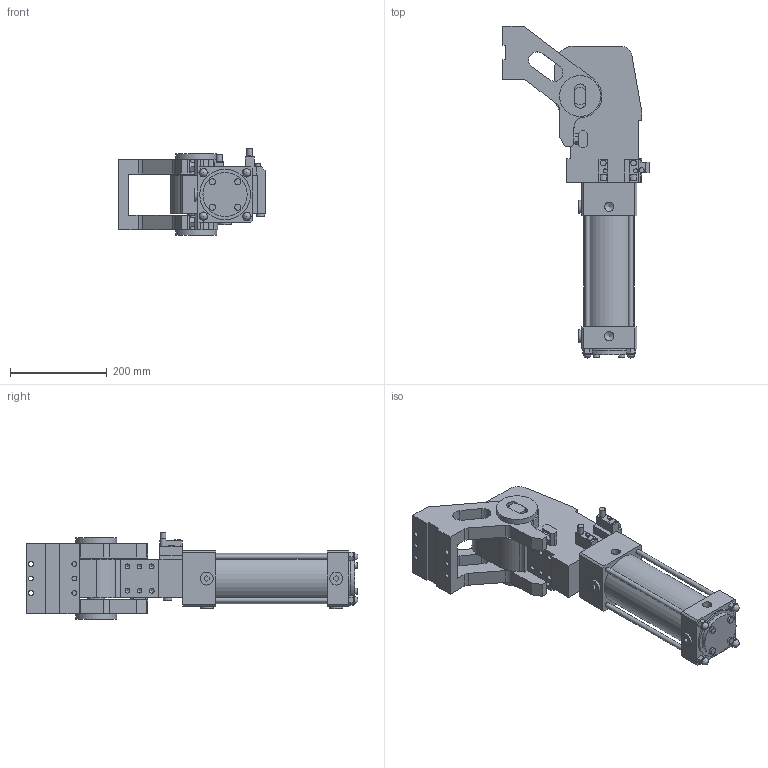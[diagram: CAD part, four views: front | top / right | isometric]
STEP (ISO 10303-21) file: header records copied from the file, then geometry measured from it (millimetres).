
FILE_DESCRIPTION(/* description */ (''),/* implementation_level */ '2;1');
FILE_NAME(/* name */ 'S:\Tom\INVENTOR FILES\AUTOMOTIVE\VEP\DUMP UNITS\C05.P015 RFM.2-RF.2\C05.P015 RFM.2-RF.2\RFM100\SATs\XPUZ100.2-121-3-ESL-P-G-X.stp',/* time_stamp */ '2018-07-29T17:26:54+01:00',/* author */ ('carl'),/* organization */ (''),/* preprocessor_version */ 'ST-DEVELOPER v16.13',/* originating_system */ 'Autodesk Inventor 2018',/* authorisation */ '');
FILE_SCHEMA (('AUTOMOTIVE_DESIGN { 1 0 10303 214 3 1 1 }'));
Length unit declared in the file: millimetre
Products named in the file (11): XPUZ100.2-121-3-ESL-P-G-X_TOP; XPUZ100; XPUZ100_1; XPUZ100_2; XPUZ100_3; XPUZ100_4; XPUZ100_5; XPUZ100_6; XPUZ100_7; XPUZ100_8; XPUZ100_9
Assembly tree (10 placements, depth 2):
  XPUZ100.2-121-3-ESL-P-G-X_TOP
    XPUZ100
    XPUZ100_1
    XPUZ100_2
    XPUZ100_3
    XPUZ100_4
    XPUZ100_5
    XPUZ100_6
    XPUZ100_7
    XPUZ100_8
    XPUZ100_9
Bounding box: 303 x 687 x 179.5 mm (x, y, z)
Volume: 8751637.7 mm3; surface area: 600328.8 mm2
Topology: 10 solids, 10 shells, 379 faces, 915 edges, 604 vertices
Faces by surface type: plane 256, cylinder 101, cone 18, sphere 4
Full cylindrical faces by diameter (mm): 5.5 x2, 8.5 x2, 10 x13, 10.2 x13, 11.8 x2, 12 x2, 13 x5, 16 x4, 18 x1, 19 x6, 20.6 x4, 27 x4, 35 x1, 44 x2, 45.5 x1, 85 x2, 91.5 x1, 105 x2
Entity records: 10771 total; most frequent: DIRECTION 1802, CARTESIAN_POINT 1778, ORIENTED_EDGE 1600, EDGE_CURVE 800, AXIS2_PLACEMENT_3D 602, LINE 598, VECTOR 598, VERTEX_POINT 578
